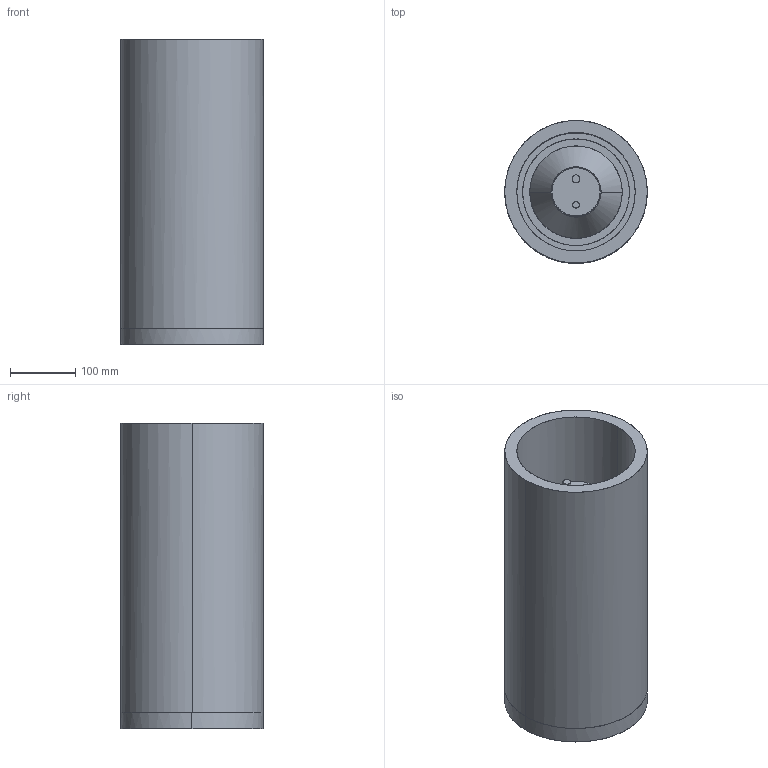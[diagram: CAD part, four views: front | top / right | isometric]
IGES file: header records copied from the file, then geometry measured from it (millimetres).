
Start section: C
Global section: file name: quartz_window.igs; native system:  By UGS Corp.; preprocessor: XPlus GENERIC/IGES 3.0; author: Author; organization: Title; date: 20110219.170308; units: millimetre
Bounding box: 219.1 x 218.75 x 469.9 mm (x, y, z)
Surface area: 911684.8 mm2 (no closed solid volume)
Topology: 0 solids, 0 shells, 122 faces, 514 edges, 508 vertices
Faces by surface type: bspline 122
